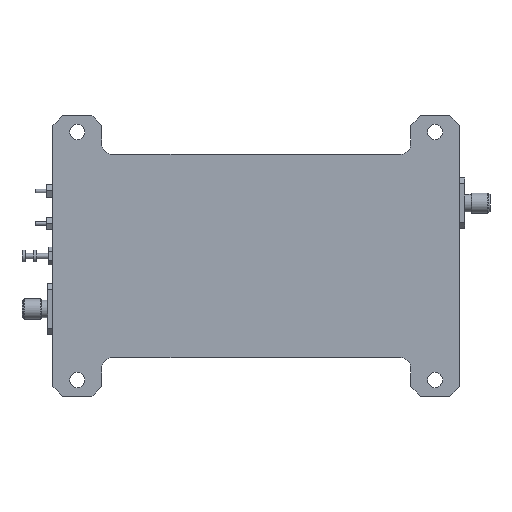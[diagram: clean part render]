
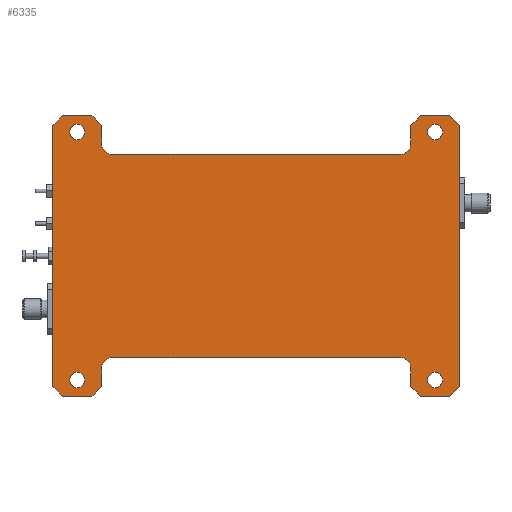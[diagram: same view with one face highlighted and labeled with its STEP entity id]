
A CAD part, top view. The second image highlights one B-rep face of the part: STEP entity #6335.
In plain terms, the highlighted planar face has unit normal (0, 0, 1) as drawn and (0, 0, -1) by its records, which use the part's own axes.
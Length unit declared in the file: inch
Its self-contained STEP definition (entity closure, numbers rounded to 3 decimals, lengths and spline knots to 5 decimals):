
#5433=CARTESIAN_POINT('',(2.106,1.525,0.0));
#5434=VERTEX_POINT('',#5433);
#5435=CARTESIAN_POINT('',(2.2,1.525,0.0));
#5436=DIRECTION('',(0.0,0.0,1.0));
#5437=DIRECTION('',(1.0,0.0,0.0));
#5438=AXIS2_PLACEMENT_3D('',#5435,#5436,#5437);
#5439=CIRCLE('',#5438,0.094);
#5440=EDGE_CURVE('',#5434,#5434,#5439,.T.);
#5461=CARTESIAN_POINT('',(2.106,-1.525,0.0));
#5462=VERTEX_POINT('',#5461);
#5463=CARTESIAN_POINT('',(2.2,-1.525,0.0));
#5464=DIRECTION('',(0.0,0.0,1.0));
#5465=DIRECTION('',(1.0,0.0,0.0));
#5466=AXIS2_PLACEMENT_3D('',#5463,#5464,#5465);
#5467=CIRCLE('',#5466,0.094);
#5468=EDGE_CURVE('',#5462,#5462,#5467,.T.);
#5489=CARTESIAN_POINT('',(-2.294,-1.525,0.0));
#5490=VERTEX_POINT('',#5489);
#5491=CARTESIAN_POINT('',(-2.2,-1.525,0.0));
#5492=DIRECTION('',(0.0,0.0,1.0));
#5493=DIRECTION('',(1.0,0.0,0.0));
#5494=AXIS2_PLACEMENT_3D('',#5491,#5492,#5493);
#5495=CIRCLE('',#5494,0.094);
#5496=EDGE_CURVE('',#5490,#5490,#5495,.T.);
#5517=CARTESIAN_POINT('',(-2.294,1.525,0.0));
#5518=VERTEX_POINT('',#5517);
#5519=CARTESIAN_POINT('',(-2.2,1.525,0.0));
#5520=DIRECTION('',(0.0,0.0,1.0));
#5521=DIRECTION('',(1.0,0.0,0.0));
#5522=AXIS2_PLACEMENT_3D('',#5519,#5520,#5521);
#5523=CIRCLE('',#5522,0.094);
#5524=EDGE_CURVE('',#5518,#5518,#5523,.T.);
#5555=CARTESIAN_POINT('',(-2.5,1.605,0.0));
#5556=VERTEX_POINT('',#5555);
#5563=CARTESIAN_POINT('',(-2.5,-1.605,0.0));
#5564=VERTEX_POINT('',#5563);
#5565=CARTESIAN_POINT('',(-2.5,1.605,0.0));
#5566=DIRECTION('',(0.0,-1.0,0.0));
#5567=VECTOR('',#5566,3.21);
#5568=LINE('',#5565,#5567);
#5569=EDGE_CURVE('',#5556,#5564,#5568,.T.);
#5593=CARTESIAN_POINT('',(-2.38,1.725,0.0));
#5594=VERTEX_POINT('',#5593);
#5601=CARTESIAN_POINT('',(-2.38,1.725,0.0));
#5602=DIRECTION('',(-0.707,-0.707,0.0));
#5603=VECTOR('',#5602,0.16971);
#5604=LINE('',#5601,#5603);
#5605=EDGE_CURVE('',#5594,#5556,#5604,.T.);
#5624=CARTESIAN_POINT('',(-2.02,1.725,0.0));
#5625=VERTEX_POINT('',#5624);
#5632=CARTESIAN_POINT('',(-2.02,1.725,0.0));
#5633=DIRECTION('',(-1.0,0.0,0.0));
#5634=VECTOR('',#5633,0.36);
#5635=LINE('',#5632,#5634);
#5636=EDGE_CURVE('',#5625,#5594,#5635,.T.);
#5655=CARTESIAN_POINT('',(-1.9,1.605,0.0));
#5656=VERTEX_POINT('',#5655);
#5663=CARTESIAN_POINT('',(-1.9,1.605,0.0));
#5664=DIRECTION('',(-0.707,0.707,0.0));
#5665=VECTOR('',#5664,0.16971);
#5666=LINE('',#5663,#5665);
#5667=EDGE_CURVE('',#5656,#5625,#5666,.T.);
#5686=CARTESIAN_POINT('',(-1.9,1.375,0.0));
#5687=VERTEX_POINT('',#5686);
#5694=CARTESIAN_POINT('',(-1.9,1.375,0.0));
#5695=DIRECTION('',(0.0,1.0,0.0));
#5696=VECTOR('',#5695,0.23);
#5697=LINE('',#5694,#5696);
#5698=EDGE_CURVE('',#5687,#5656,#5697,.T.);
#5718=CARTESIAN_POINT('',(-1.775,1.25,0.0));
#5719=VERTEX_POINT('',#5718);
#5726=CARTESIAN_POINT('',(-1.775,1.375,0.0));
#5727=DIRECTION('',(0.0,0.0,-1.0));
#5728=DIRECTION('',(1.0,0.0,0.0));
#5729=AXIS2_PLACEMENT_3D('',#5726,#5727,#5728);
#5730=CIRCLE('',#5729,0.125);
#5731=EDGE_CURVE('',#5719,#5687,#5730,.T.);
#5750=CARTESIAN_POINT('',(1.775,1.25,0.0));
#5751=VERTEX_POINT('',#5750);
#5758=CARTESIAN_POINT('',(1.775,1.25,0.0));
#5759=DIRECTION('',(-1.0,0.0,0.0));
#5760=VECTOR('',#5759,3.55);
#5761=LINE('',#5758,#5760);
#5762=EDGE_CURVE('',#5751,#5719,#5761,.T.);
#5782=CARTESIAN_POINT('',(1.9,1.375,0.0));
#5783=VERTEX_POINT('',#5782);
#5790=CARTESIAN_POINT('',(1.775,1.375,0.0));
#5791=DIRECTION('',(0.0,0.0,-1.0));
#5792=DIRECTION('',(0.0,1.0,0.0));
#5793=AXIS2_PLACEMENT_3D('',#5790,#5791,#5792);
#5794=CIRCLE('',#5793,0.125);
#5795=EDGE_CURVE('',#5783,#5751,#5794,.T.);
#5814=CARTESIAN_POINT('',(1.9,1.605,0.0));
#5815=VERTEX_POINT('',#5814);
#5822=CARTESIAN_POINT('',(1.9,1.605,0.0));
#5823=DIRECTION('',(0.0,-1.0,0.0));
#5824=VECTOR('',#5823,0.23);
#5825=LINE('',#5822,#5824);
#5826=EDGE_CURVE('',#5815,#5783,#5825,.T.);
#5845=CARTESIAN_POINT('',(2.02,1.725,0.0));
#5846=VERTEX_POINT('',#5845);
#5853=CARTESIAN_POINT('',(2.02,1.725,0.0));
#5854=DIRECTION('',(-0.707,-0.707,0.0));
#5855=VECTOR('',#5854,0.16971);
#5856=LINE('',#5853,#5855);
#5857=EDGE_CURVE('',#5846,#5815,#5856,.T.);
#5876=CARTESIAN_POINT('',(2.38,1.725,0.0));
#5877=VERTEX_POINT('',#5876);
#5884=CARTESIAN_POINT('',(2.38,1.725,0.0));
#5885=DIRECTION('',(-1.0,0.0,0.0));
#5886=VECTOR('',#5885,0.36);
#5887=LINE('',#5884,#5886);
#5888=EDGE_CURVE('',#5877,#5846,#5887,.T.);
#5907=CARTESIAN_POINT('',(2.5,1.605,0.0));
#5908=VERTEX_POINT('',#5907);
#5915=CARTESIAN_POINT('',(2.5,1.605,0.0));
#5916=DIRECTION('',(-0.707,0.707,0.0));
#5917=VECTOR('',#5916,0.16971);
#5918=LINE('',#5915,#5917);
#5919=EDGE_CURVE('',#5908,#5877,#5918,.T.);
#5938=CARTESIAN_POINT('',(2.5,-1.605,0.0));
#5939=VERTEX_POINT('',#5938);
#5946=CARTESIAN_POINT('',(2.5,-1.605,0.0));
#5947=DIRECTION('',(0.0,1.0,0.0));
#5948=VECTOR('',#5947,3.21);
#5949=LINE('',#5946,#5948);
#5950=EDGE_CURVE('',#5939,#5908,#5949,.T.);
#5969=CARTESIAN_POINT('',(2.38,-1.725,0.0));
#5970=VERTEX_POINT('',#5969);
#5977=CARTESIAN_POINT('',(2.38,-1.725,0.0));
#5978=DIRECTION('',(0.707,0.707,0.0));
#5979=VECTOR('',#5978,0.16971);
#5980=LINE('',#5977,#5979);
#5981=EDGE_CURVE('',#5970,#5939,#5980,.T.);
#6000=CARTESIAN_POINT('',(2.02,-1.725,0.0));
#6001=VERTEX_POINT('',#6000);
#6008=CARTESIAN_POINT('',(2.02,-1.725,0.0));
#6009=DIRECTION('',(1.0,0.0,0.0));
#6010=VECTOR('',#6009,0.36);
#6011=LINE('',#6008,#6010);
#6012=EDGE_CURVE('',#6001,#5970,#6011,.T.);
#6031=CARTESIAN_POINT('',(1.9,-1.605,0.0));
#6032=VERTEX_POINT('',#6031);
#6039=CARTESIAN_POINT('',(1.9,-1.605,0.0));
#6040=DIRECTION('',(0.707,-0.707,0.0));
#6041=VECTOR('',#6040,0.16971);
#6042=LINE('',#6039,#6041);
#6043=EDGE_CURVE('',#6032,#6001,#6042,.T.);
#6062=CARTESIAN_POINT('',(1.9,-1.375,0.0));
#6063=VERTEX_POINT('',#6062);
#6070=CARTESIAN_POINT('',(1.9,-1.375,0.0));
#6071=DIRECTION('',(0.0,-1.0,0.0));
#6072=VECTOR('',#6071,0.23);
#6073=LINE('',#6070,#6072);
#6074=EDGE_CURVE('',#6063,#6032,#6073,.T.);
#6094=CARTESIAN_POINT('',(1.775,-1.25,0.0));
#6095=VERTEX_POINT('',#6094);
#6102=CARTESIAN_POINT('',(1.775,-1.375,0.0));
#6103=DIRECTION('',(0.0,0.0,-1.0));
#6104=DIRECTION('',(-1.0,0.0,0.0));
#6105=AXIS2_PLACEMENT_3D('',#6102,#6103,#6104);
#6106=CIRCLE('',#6105,0.125);
#6107=EDGE_CURVE('',#6095,#6063,#6106,.T.);
#6126=CARTESIAN_POINT('',(-1.775,-1.25,0.0));
#6127=VERTEX_POINT('',#6126);
#6134=CARTESIAN_POINT('',(-1.775,-1.25,0.0));
#6135=DIRECTION('',(1.0,0.0,0.0));
#6136=VECTOR('',#6135,3.55);
#6137=LINE('',#6134,#6136);
#6138=EDGE_CURVE('',#6127,#6095,#6137,.T.);
#6158=CARTESIAN_POINT('',(-1.9,-1.375,0.0));
#6159=VERTEX_POINT('',#6158);
#6166=CARTESIAN_POINT('',(-1.775,-1.375,0.0));
#6167=DIRECTION('',(0.0,0.0,-1.0));
#6168=DIRECTION('',(0.0,-1.0,0.0));
#6169=AXIS2_PLACEMENT_3D('',#6166,#6167,#6168);
#6170=CIRCLE('',#6169,0.125);
#6171=EDGE_CURVE('',#6159,#6127,#6170,.T.);
#6190=CARTESIAN_POINT('',(-1.9,-1.605,0.0));
#6191=VERTEX_POINT('',#6190);
#6198=CARTESIAN_POINT('',(-1.9,-1.605,0.0));
#6199=DIRECTION('',(0.0,1.0,0.0));
#6200=VECTOR('',#6199,0.23);
#6201=LINE('',#6198,#6200);
#6202=EDGE_CURVE('',#6191,#6159,#6201,.T.);
#6221=CARTESIAN_POINT('',(-2.02,-1.725,0.0));
#6222=VERTEX_POINT('',#6221);
#6229=CARTESIAN_POINT('',(-2.02,-1.725,0.0));
#6230=DIRECTION('',(0.707,0.707,0.0));
#6231=VECTOR('',#6230,0.16971);
#6232=LINE('',#6229,#6231);
#6233=EDGE_CURVE('',#6222,#6191,#6232,.T.);
#6252=CARTESIAN_POINT('',(-2.38,-1.725,0.0));
#6253=VERTEX_POINT('',#6252);
#6260=CARTESIAN_POINT('',(-2.38,-1.725,0.0));
#6261=DIRECTION('',(1.0,0.0,0.0));
#6262=VECTOR('',#6261,0.36);
#6263=LINE('',#6260,#6262);
#6264=EDGE_CURVE('',#6253,#6222,#6263,.T.);
#6282=CARTESIAN_POINT('',(-2.5,-1.605,0.0));
#6283=DIRECTION('',(0.707,-0.707,0.0));
#6284=VECTOR('',#6283,0.16971);
#6285=LINE('',#6282,#6284);
#6286=EDGE_CURVE('',#5564,#6253,#6285,.T.);
#6292=CARTESIAN_POINT('',(0.,0.,0.0));
#6293=DIRECTION('',(0.0,0.0,1.0));
#6294=DIRECTION('',(1.0,0.0,0.0));
#6295=AXIS2_PLACEMENT_3D('',#6292,#6293,#6294);
#6296=PLANE('',#6295);
#6297=ORIENTED_EDGE('',*,*,#5569,.F.);
#6298=ORIENTED_EDGE('',*,*,#5605,.F.);
#6299=ORIENTED_EDGE('',*,*,#5636,.F.);
#6300=ORIENTED_EDGE('',*,*,#5667,.F.);
#6301=ORIENTED_EDGE('',*,*,#5698,.F.);
#6302=ORIENTED_EDGE('',*,*,#5731,.F.);
#6303=ORIENTED_EDGE('',*,*,#5762,.F.);
#6304=ORIENTED_EDGE('',*,*,#5795,.F.);
#6305=ORIENTED_EDGE('',*,*,#5826,.F.);
#6306=ORIENTED_EDGE('',*,*,#5857,.F.);
#6307=ORIENTED_EDGE('',*,*,#5888,.F.);
#6308=ORIENTED_EDGE('',*,*,#5919,.F.);
#6309=ORIENTED_EDGE('',*,*,#5950,.F.);
#6310=ORIENTED_EDGE('',*,*,#5981,.F.);
#6311=ORIENTED_EDGE('',*,*,#6012,.F.);
#6312=ORIENTED_EDGE('',*,*,#6043,.F.);
#6313=ORIENTED_EDGE('',*,*,#6074,.F.);
#6314=ORIENTED_EDGE('',*,*,#6107,.F.);
#6315=ORIENTED_EDGE('',*,*,#6138,.F.);
#6316=ORIENTED_EDGE('',*,*,#6171,.F.);
#6317=ORIENTED_EDGE('',*,*,#6202,.F.);
#6318=ORIENTED_EDGE('',*,*,#6233,.F.);
#6319=ORIENTED_EDGE('',*,*,#6264,.F.);
#6320=ORIENTED_EDGE('',*,*,#6286,.F.);
#6321=EDGE_LOOP('',(#6297,#6298,#6299,#6300,#6301,#6302,#6303,#6304,#6305,#6306,#6307,#6308,#6309,#6310,#6311,#6312,#6313,#6314,#6315,#6316,#6317,#6318,#6319,#6320));
#6322=FACE_OUTER_BOUND('',#6321,.T.);
#6323=ORIENTED_EDGE('',*,*,#5440,.T.);
#6324=EDGE_LOOP('',(#6323));
#6325=FACE_BOUND('',#6324,.T.);
#6326=ORIENTED_EDGE('',*,*,#5468,.T.);
#6327=EDGE_LOOP('',(#6326));
#6328=FACE_BOUND('',#6327,.T.);
#6329=ORIENTED_EDGE('',*,*,#5496,.T.);
#6330=EDGE_LOOP('',(#6329));
#6331=FACE_BOUND('',#6330,.T.);
#6332=ORIENTED_EDGE('',*,*,#5524,.T.);
#6333=EDGE_LOOP('',(#6332));
#6334=FACE_BOUND('',#6333,.T.);
#6335=ADVANCED_FACE('',(#6322,#6325,#6328,#6331,#6334),#6296,.F.);
